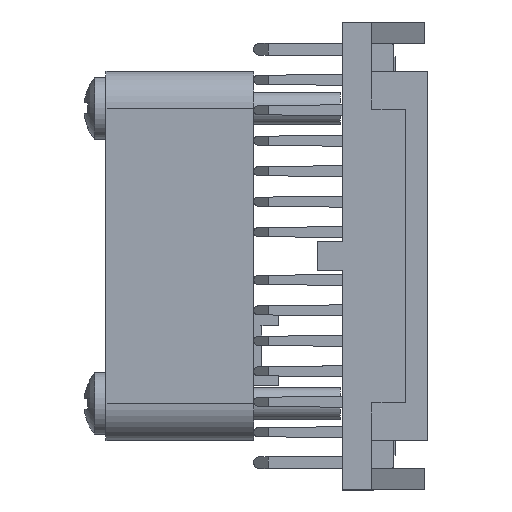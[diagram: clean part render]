
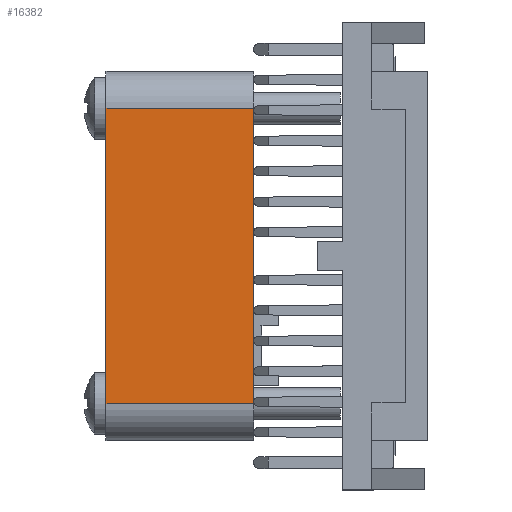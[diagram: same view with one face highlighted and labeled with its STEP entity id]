
A CAD part, left-side view. The second image highlights one B-rep face of the part: STEP entity #16382.
In plain terms, the highlighted planar face has unit normal (-1, 0, 0).
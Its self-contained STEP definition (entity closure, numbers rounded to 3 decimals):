
#973 = DIRECTION ( 'NONE',  ( 0., -1., 0. ) ) ;
#1157 = CARTESIAN_POINT ( 'NONE',  ( -16.008, 55.3, 6.534 ) ) ;
#1444 = EDGE_LOOP ( 'NONE', ( #17233, #15042, #10753, #14237 ) ) ;
#1460 = CARTESIAN_POINT ( 'NONE',  ( -16.008, 55.3, -13.466 ) ) ;
#2148 = LINE ( 'NONE', #8127, #6530 ) ;
#2243 = DIRECTION ( 'NONE',  ( 0., -1., 0. ) ) ;
#2659 = CARTESIAN_POINT ( 'NONE',  ( -16.008, 45.3, 6.534 ) ) ;
#3690 = LINE ( 'NONE', #1157, #9505 ) ;
#3741 = CARTESIAN_POINT ( 'NONE',  ( -16.008, 45.3, 6.534 ) ) ;
#4214 = EDGE_CURVE ( 'NONE', #5708, #14114, #3690, .T. ) ;
#4704 = LINE ( 'NONE', #6513, #4991 ) ;
#4991 = VECTOR ( 'NONE', #18121, 1000. ) ;
#5151 = CARTESIAN_POINT ( 'NONE',  ( -16.008, 55.3, 6.534 ) ) ;
#5464 = AXIS2_PLACEMENT_3D ( 'NONE', #5151, #6516, #7953 ) ;
#5517 = DIRECTION ( 'NONE',  ( 0., 0., 1. ) ) ;
#5708 = VERTEX_POINT ( 'NONE', #18112 ) ;
#6440 = VERTEX_POINT ( 'NONE', #8137 ) ;
#6513 = CARTESIAN_POINT ( 'NONE',  ( -16.008, 55.3, 6.534 ) ) ;
#6516 = DIRECTION ( 'NONE',  ( 1., 0., 0. ) ) ;
#6530 = VECTOR ( 'NONE', #2243, 1000. ) ;
#7861 = FACE_OUTER_BOUND ( 'NONE', #1444, .T. ) ;
#7953 = DIRECTION ( 'NONE',  ( 0., 0., -1. ) ) ;
#8127 = CARTESIAN_POINT ( 'NONE',  ( -16.008, 55.3, -13.466 ) ) ;
#8137 = CARTESIAN_POINT ( 'NONE',  ( -16.008, 45.3, -13.466 ) ) ;
#8804 = EDGE_CURVE ( 'NONE', #14850, #6440, #2148, .T. ) ;
#9505 = VECTOR ( 'NONE', #973, 1000. ) ;
#10247 = EDGE_CURVE ( 'NONE', #14850, #5708, #4704, .T. ) ;
#10369 = EDGE_CURVE ( 'NONE', #6440, #14114, #18594, .T. ) ;
#10753 = ORIENTED_EDGE ( 'NONE', *, *, #10247, .F. ) ;
#11691 = VECTOR ( 'NONE', #5517, 1000. ) ;
#14114 = VERTEX_POINT ( 'NONE', #2659 ) ;
#14237 = ORIENTED_EDGE ( 'NONE', *, *, #8804, .T. ) ;
#14850 = VERTEX_POINT ( 'NONE', #1460 ) ;
#15016 = PLANE ( 'NONE',  #5464 ) ;
#15042 = ORIENTED_EDGE ( 'NONE', *, *, #4214, .F. ) ;
#16382 = ADVANCED_FACE ( 'NONE', ( #7861 ), #15016, .F. ) ;
#17233 = ORIENTED_EDGE ( 'NONE', *, *, #10369, .T. ) ;
#18112 = CARTESIAN_POINT ( 'NONE',  ( -16.008, 55.3, 6.534 ) ) ;
#18121 = DIRECTION ( 'NONE',  ( 0., 0., 1. ) ) ;
#18594 = LINE ( 'NONE', #3741, #11691 ) ;
